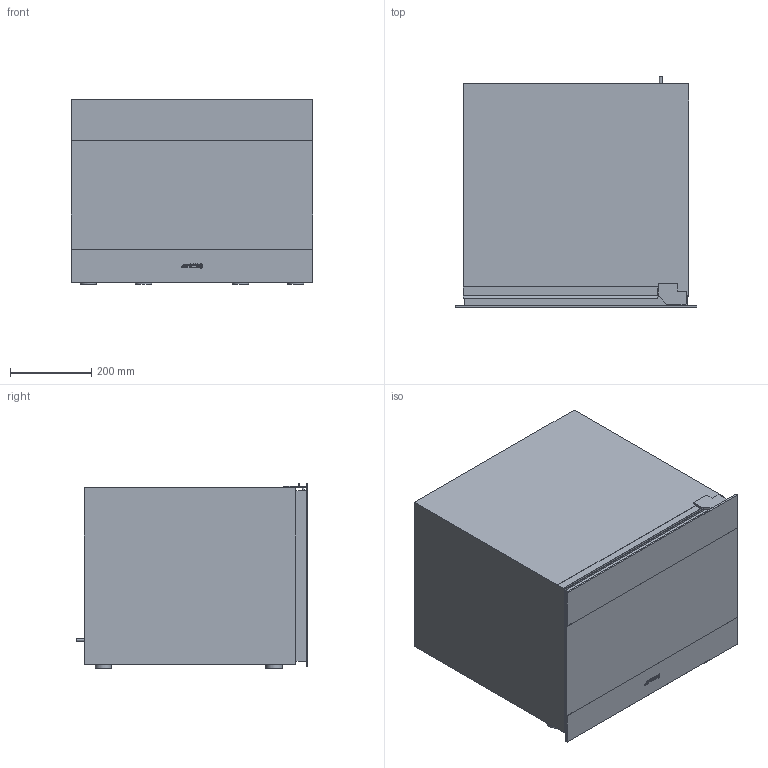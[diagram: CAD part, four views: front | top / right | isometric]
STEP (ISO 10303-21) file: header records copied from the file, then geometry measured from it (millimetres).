
FILE_DESCRIPTION(/* description */ (''),/* implementation_level */ '2;1');
FILE_NAME(/* name */ 'CVI321X3.stp',/* time_stamp */ '2021-06-18T08:58:08+02:00',/* author */ (''),/* organization */ (''),/* preprocessor_version */ 'ST-DEVELOPER v16',/* originating_system */ 'SIEMENS PLM Software NX 11.0',/* authorisation */ '');
FILE_SCHEMA (('AUTOMOTIVE_DESIGN { 1 0 10303 214 3 1 1 1 }'));
Length unit declared in the file: millimetre
Products named in the file (1): mart3B3C3754vxoe
Bounding box: 595 x 571.4 x 455.53 mm (x, y, z)
Volume: 133449062 mm3; surface area: 2813372.2 mm2
Topology: 15 solids, 15 shells, 154 faces, 352 edges, 234 vertices
Faces by surface type: plane 99, cylinder 44, extrusion 11
Full cylindrical faces by diameter (mm): 4.608 x6, 6 x1, 7 x1, 40 x4
Entity records: 4645 total; most frequent: CARTESIAN_POINT 1032, DIRECTION 706, ORIENTED_EDGE 678, EDGE_CURVE 339, VECTOR 238, VERTEX_POINT 234, AXIS2_PLACEMENT_3D 234, LINE 227
